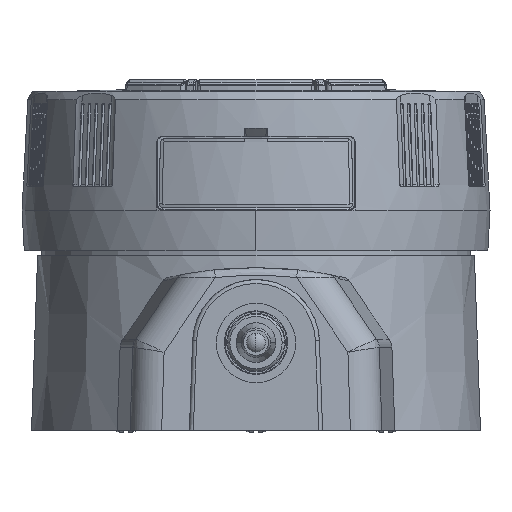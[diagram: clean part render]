
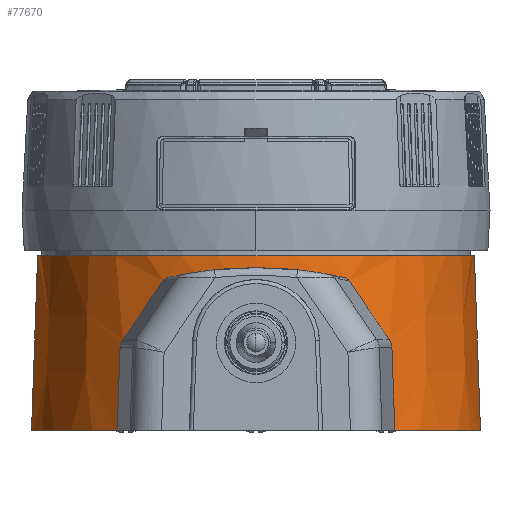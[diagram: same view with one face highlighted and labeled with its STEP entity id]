
A CAD part, front view. The second image highlights one B-rep face of the part: STEP entity #77670.
In plain terms, the highlighted conical face has half-angle 2 degrees and reference radius 28.317 mm.
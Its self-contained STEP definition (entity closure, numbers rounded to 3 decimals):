
#1400=CARTESIAN_POINT('',(156.785,-22.285,
-2.269));
#1410=VERTEX_POINT('',#1400);
#1440=CARTESIAN_POINT('',(156.785,-22.285,
-2.269));
#1450=CARTESIAN_POINT('',(156.986,-22.146,
-2.561));
#1460=CARTESIAN_POINT('',(157.123,-22.057,
-2.953));
#1470=CARTESIAN_POINT('',(157.136,-22.063,
-3.333));
#1480=B_SPLINE_CURVE_WITH_KNOTS('',3,(#1440,#1450,#1460,#1470),
.UNSPECIFIED.,.F.,.F.,(4,4),(0.,1.186),.UNSPECIFIED.);
#1490=CARTESIAN_POINT('',(157.136,-22.063,
-3.333));
#1500=VERTEX_POINT('',#1490);
#1510=EDGE_CURVE('',#1410,#1500,#1480,.T.);
#5310=CARTESIAN_POINT('',(128.882,-25.292,
5.498));
#5320=VERTEX_POINT('',#5310);
#5350=CARTESIAN_POINT('',(151.118,-25.292,
5.498));
#5360=CARTESIAN_POINT('',(149.396,-26.034,
5.891));
#5370=CARTESIAN_POINT('',(145.759,-27.188,
6.526));
#5380=CARTESIAN_POINT('',(140.,-27.782,
6.862));
#5390=CARTESIAN_POINT('',(134.241,-27.188,
6.526));
#5400=CARTESIAN_POINT('',(130.604,-26.034,
5.891));
#5410=CARTESIAN_POINT('',(128.882,-25.292,
5.498));
#5420=B_SPLINE_CURVE_WITH_KNOTS('',3,(#5350,#5360,#5370,#5380,#5390,
#5400,#5410),.UNSPECIFIED.,.F.,.F.,(4,1,1,1,4),(0.,0.25,
0.5,0.75,1.),.UNSPECIFIED.);
#5430=CARTESIAN_POINT('',(151.118,-25.292,
5.498));
#5440=VERTEX_POINT('',#5430);
#5450=EDGE_CURVE('',#5440,#5320,#5420,.T.);
#7230=CARTESIAN_POINT('',(128.28,-25.035,
5.09));
#7240=VERTEX_POINT('',#7230);
#7270=CARTESIAN_POINT('',(128.28,-25.035,
5.09));
#7280=CARTESIAN_POINT('',(128.422,-25.093,
5.296));
#7290=CARTESIAN_POINT('',(128.651,-25.192,
5.445));
#7300=CARTESIAN_POINT('',(128.882,-25.292,
5.498));
#7310=B_SPLINE_CURVE_WITH_KNOTS('',3,(#7270,#7280,#7290,#7300),
.UNSPECIFIED.,.F.,.F.,(4,4),(0.,0.804),.UNSPECIFIED.);
#7320=EDGE_CURVE('',#7240,#5320,#7310,.T.);
#8680=CARTESIAN_POINT('',(140.,0.,
-13.75));
#8690=DIRECTION('',(0.,0.,-1.));
#8700=DIRECTION('',(-1.,0.,0.));
#8710=AXIS2_PLACEMENT_3D('',#8680,#8690,#8700);
#8720=CIRCLE('',#8710,28.3);
#8730=CARTESIAN_POINT('',(111.7,0.,
-13.75));
#8740=VERTEX_POINT('',#8730);
#8750=CARTESIAN_POINT('',(168.3,0.,
-13.75));
#8760=VERTEX_POINT('',#8750);
#8790=CARTESIAN_POINT('',(122.5,-22.241,-13.75));
#8800=VERTEX_POINT('',#8790);
#8810=EDGE_CURVE('',#8800,#8740,#8720,.T.);
#9430=CARTESIAN_POINT('',(157.5,-22.241,-13.75));
#9440=VERTEX_POINT('',#9430);
#9470=EDGE_CURVE('',#8760,#9440,#8720,.T.);
#11240=CARTESIAN_POINT('',(122.864,-22.063,
-3.333));
#11250=VERTEX_POINT('',#11240);
#11280=CARTESIAN_POINT('',(122.864,-22.063,
-3.333));
#11290=CARTESIAN_POINT('',(122.877,-22.057,
-2.953));
#11300=CARTESIAN_POINT('',(123.014,-22.146,
-2.561));
#11310=CARTESIAN_POINT('',(123.215,-22.285,
-2.269));
#11320=B_SPLINE_CURVE_WITH_KNOTS('',3,(#11280,#11290,#11300,#11310),
.UNSPECIFIED.,.F.,.F.,(4,4),(0.,1.186),.UNSPECIFIED.);
#11330=CARTESIAN_POINT('',(123.215,-22.285,
-2.269));
#11340=VERTEX_POINT('',#11330);
#11350=EDGE_CURVE('',#11250,#11340,#11320,.T.);
#11460=CARTESIAN_POINT('',(122.874,-30.742,
-3.041));
#11470=DIRECTION('',(-0.999,0.,0.035));
#11480=DIRECTION('',(0.035,0.,0.999));
#11490=AXIS2_PLACEMENT_3D('',#11460,#11470,#11480);
#11500=PLANE('',#11490);
#11520=CARTESIAN_POINT('',(140.,0.,
-14.25));
#11530=DIRECTION('',(0.,0.,-1.));
#11540=DIRECTION('',(-1.,0.,0.));
#11550=AXIS2_PLACEMENT_3D('',#11520,#11530,#11540);
#11560=CONICAL_SURFACE('',#11550,28.317,0.035);
#11570=CARTESIAN_POINT('',(122.5,-22.241,
-13.75));
#11580=CARTESIAN_POINT('',(122.53,-22.226,
-12.882));
#11590=CARTESIAN_POINT('',(122.561,-22.211,
-12.014));
#11600=CARTESIAN_POINT('',(122.591,-22.196,
-11.146));
#11610=CARTESIAN_POINT('',(122.621,-22.182,
-10.278));
#11620=CARTESIAN_POINT('',(122.652,-22.167,
-9.41));
#11630=CARTESIAN_POINT('',(122.682,-22.152,
-8.542));
#11640=CARTESIAN_POINT('',(122.712,-22.137,
-7.674));
#11650=CARTESIAN_POINT('',(122.743,-22.122,
-6.806));
#11660=CARTESIAN_POINT('',(122.773,-22.108,
-5.937));
#11670=CARTESIAN_POINT('',(122.803,-22.093,
-5.069));
#11680=CARTESIAN_POINT('',(122.833,-22.078,
-4.201));
#11690=CARTESIAN_POINT('',(122.864,-22.063,
-3.333));
#11700=B_SPLINE_CURVE_WITH_KNOTS('',3,(#11570,#11580,#11590,#11600,
#11610,#11620,#11630,#11640,#11650,#11660,#11670,#11680,#11690),
.UNSPECIFIED.,.F.,.F.,(4,3,3,3,4),(0.,2.606,5.212,
7.818,10.425),.UNSPECIFIED.);
#11710=SURFACE_CURVE('',#11700,(#11500,#11560),.CURVE_3D.);
#11720=EDGE_CURVE('',#8800,#11250,#11710,.T.);
#12510=CARTESIAN_POINT('',(156.785,-22.285,
-2.269));
#12520=CARTESIAN_POINT('',(155.14,-23.42,
0.121));
#12530=CARTESIAN_POINT('',(153.44,-24.326,
2.591));
#12540=CARTESIAN_POINT('',(151.72,-25.035,
5.09));
#12550=B_SPLINE_CURVE_WITH_KNOTS('',3,(#12510,#12520,#12530,#12540),
.UNSPECIFIED.,.F.,.F.,(4,4),(0.,9.363),.UNSPECIFIED.);
#12560=CARTESIAN_POINT('',(151.72,-25.035,
5.09));
#12570=VERTEX_POINT('',#12560);
#12580=EDGE_CURVE('',#1410,#12570,#12550,.T.);
#15150=CARTESIAN_POINT('',(128.28,-25.035,
5.09));
#15160=CARTESIAN_POINT('',(126.56,-24.326,
2.591));
#15170=CARTESIAN_POINT('',(124.86,-23.42,
0.121));
#15180=CARTESIAN_POINT('',(123.215,-22.285,
-2.269));
#15190=B_SPLINE_CURVE_WITH_KNOTS('',3,(#15150,#15160,#15170,#15180),
.UNSPECIFIED.,.F.,.F.,(4,4),(0.,9.363),.UNSPECIFIED.);
#15200=EDGE_CURVE('',#7240,#11340,#15190,.T.);
#15250=CARTESIAN_POINT('',(157.126,-30.742,
-3.039));
#15260=DIRECTION('',(0.999,0.,0.035));
#15270=DIRECTION('',(0.035,0.,-0.999));
#15280=AXIS2_PLACEMENT_3D('',#15250,#15260,#15270);
#15290=PLANE('',#15280);
#15300=CARTESIAN_POINT('',(157.136,-22.063,
-3.333));
#15310=CARTESIAN_POINT('',(157.167,-22.078,
-4.201));
#15320=CARTESIAN_POINT('',(157.197,-22.093,
-5.069));
#15330=CARTESIAN_POINT('',(157.227,-22.108,
-5.937));
#15340=CARTESIAN_POINT('',(157.257,-22.122,
-6.806));
#15350=CARTESIAN_POINT('',(157.288,-22.137,
-7.674));
#15360=CARTESIAN_POINT('',(157.318,-22.152,
-8.542));
#15370=CARTESIAN_POINT('',(157.348,-22.167,
-9.41));
#15380=CARTESIAN_POINT('',(157.379,-22.182,
-10.278));
#15390=CARTESIAN_POINT('',(157.409,-22.196,
-11.146));
#15400=CARTESIAN_POINT('',(157.439,-22.211,
-12.014));
#15410=CARTESIAN_POINT('',(157.47,-22.226,
-12.882));
#15420=CARTESIAN_POINT('',(157.5,-22.241,
-13.75));
#15430=B_SPLINE_CURVE_WITH_KNOTS('',3,(#15300,#15310,#15320,#15330,
#15340,#15350,#15360,#15370,#15380,#15390,#15400,#15410,#15420),
.UNSPECIFIED.,.F.,.F.,(4,3,3,3,4),(0.,2.606,5.212,
7.818,10.425),.UNSPECIFIED.);
#15440=SURFACE_CURVE('',#15430,(#15290,#11560),.CURVE_3D.);
#15450=EDGE_CURVE('',#1500,#9440,#15440,.T.);
#15600=CARTESIAN_POINT('',(151.118,-25.292,
5.498));
#15610=CARTESIAN_POINT('',(151.349,-25.192,
5.445));
#15620=CARTESIAN_POINT('',(151.578,-25.093,
5.296));
#15630=CARTESIAN_POINT('',(151.72,-25.035,
5.09));
#15640=B_SPLINE_CURVE_WITH_KNOTS('',3,(#15600,#15610,#15620,#15630),
.UNSPECIFIED.,.F.,.F.,(4,4),(0.,0.804),.UNSPECIFIED.);
#15650=EDGE_CURVE('',#5440,#12570,#15640,.T.);
#77050=CARTESIAN_POINT('',(140.,0.,
8.25));
#77060=DIRECTION('',(0.,0.,-1.));
#77070=DIRECTION('',(-1.,0.,0.));
#77080=AXIS2_PLACEMENT_3D('',#77050,#77060,#77070);
#77090=CIRCLE('',#77080,27.532);
#77100=CARTESIAN_POINT('',(167.532,0.,
8.25));
#77110=VERTEX_POINT('',#77100);
#77120=CARTESIAN_POINT('',(112.468,0.,
8.25));
#77130=VERTEX_POINT('',#77120);
#77140=EDGE_CURVE('',#77110,#77130,#77090,.T.);
#77360=CARTESIAN_POINT('',(140.,0.,
-14.25));
#77370=DIRECTION('',(0.,0.,-1.));
#77380=DIRECTION('',(-1.,0.,0.));
#77390=AXIS2_PLACEMENT_3D('',#77360,#77370,#77380);
#77400=CONICAL_SURFACE('',#77390,28.317,0.035);
#77410=ORIENTED_EDGE('',*,*,#15450,.T.);
#77420=ORIENTED_EDGE('',*,*,#1510,.T.);
#77430=ORIENTED_EDGE('',*,*,#12580,.F.);
#77440=ORIENTED_EDGE('',*,*,#15650,.T.);
#77450=ORIENTED_EDGE('',*,*,#5450,.F.);
#77460=ORIENTED_EDGE('',*,*,#7320,.T.);
#77470=ORIENTED_EDGE('',*,*,#15200,.F.);
#77480=ORIENTED_EDGE('',*,*,#11350,.T.);
#77490=ORIENTED_EDGE('',*,*,#11720,.T.);
#77500=ORIENTED_EDGE('',*,*,#8810,.F.);
#77510=CARTESIAN_POINT('',(111.683,0.,
-14.25));
#77520=DIRECTION('',(-0.035,0.,
-0.999));
#77530=VECTOR('',#77520,811.4);
#77540=LINE('',#77510,#77530);
#77550=EDGE_CURVE('',#77130,#8740,#77540,.T.);
#77560=ORIENTED_EDGE('',*,*,#77550,.T.);
#77570=ORIENTED_EDGE('',*,*,#77140,.T.);
#77580=CARTESIAN_POINT('',(168.317,0.,
-14.25));
#77590=DIRECTION('',(0.035,0.,
-0.999));
#77600=VECTOR('',#77590,811.4);
#77610=LINE('',#77580,#77600);
#77620=EDGE_CURVE('',#77110,#8760,#77610,.T.);
#77630=ORIENTED_EDGE('',*,*,#77620,.F.);
#77640=ORIENTED_EDGE('',*,*,#9470,.F.);
#77650=EDGE_LOOP('',(#77640,#77630,#77570,#77560,#77500,#77490,#77480,
#77470,#77460,#77450,#77440,#77430,#77420,#77410));
#77660=FACE_OUTER_BOUND('',#77650,.T.);
#77670=ADVANCED_FACE('',(#77660),#77400,.T.);
